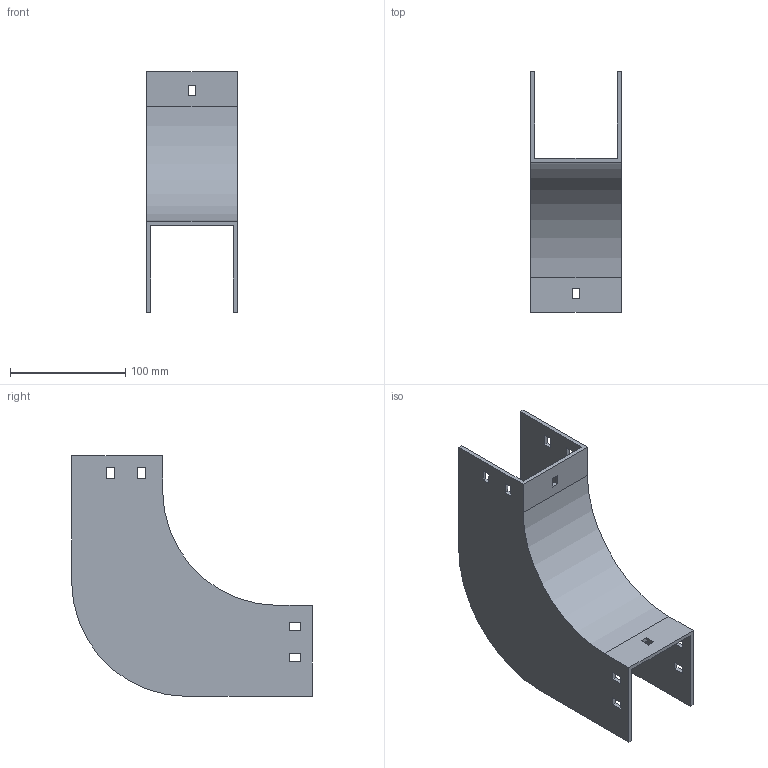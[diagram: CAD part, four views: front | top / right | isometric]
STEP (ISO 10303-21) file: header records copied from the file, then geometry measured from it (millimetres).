
FILE_DESCRIPTION (( 'STEP AP214' ), '1' );
FILE_NAME ('33F1C075.step', '2025-02-21T12:52:42', ( '' ), ( '' ), 'SwSTEP 2.0', 'SolidWorks 2023', '' );
FILE_SCHEMA (( 'AUTOMOTIVE_DESIGN' ));
Length unit declared in the file: millimetre
Products named in the file (1): 33F1C075
Bounding box: 79 x 209 x 209 mm (x, y, z)
Volume: 240494.3 mm3; surface area: 142810.6 mm2
Topology: 1 solids, 1 shells, 58 faces, 168 edges, 112 vertices
Faces by surface type: plane 54, cylinder 4
Entity records: 1943 total; most frequent: CARTESIAN_POINT 339, ORIENTED_EDGE 336, DIRECTION 294, EDGE_CURVE 168, LINE 160, VECTOR 160, VERTEX_POINT 112, EDGE_LOOP 78
